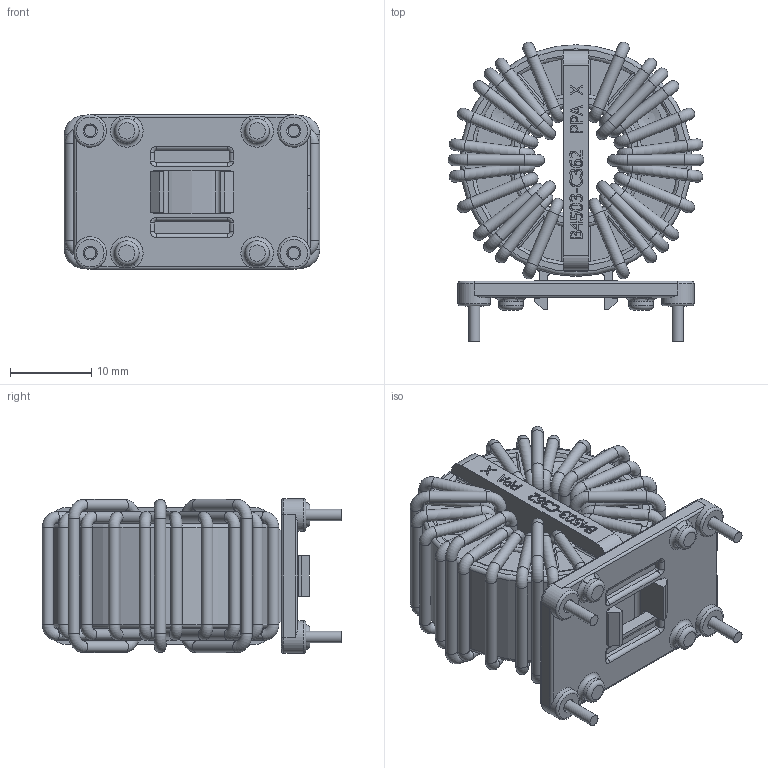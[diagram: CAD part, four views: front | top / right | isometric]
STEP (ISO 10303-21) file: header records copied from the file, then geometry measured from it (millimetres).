
FILE_DESCRIPTION(/* description */ (''),/* implementation_level */ '2;1');
FILE_NAME(/* name */ 'G:\KB-FTKon\CAD\Inventor\Bauelementnummer\6127-X014\6127-X014_Shrinkwrap_1.stp',/* time_stamp */ '2019-04-30T11:02:42+02:00',/* author */ ('de041100'),/* organization */ (''),/* preprocessor_version */ 'ST-DEVELOPER v17.2',/* originating_system */ 'Autodesk Inventor 2019',/* authorisation */ '');
FILE_SCHEMA (('AUTOMOTIVE_DESIGN { 1 0 10303 214 3 1 1 }'));
Length unit declared in the file: millimetre
Products named in the file (1): 6127-X014_Shrinkwrap_1
Bounding box: 31.4 x 36.77 x 19 mm (x, y, z)
Volume: 9805.8 mm3; surface area: 10887.4 mm2
Topology: 25 solids, 25 shells, 1354 faces, 3919 edges, 2622 vertices
Faces by surface type: plane 550, bspline 401, cylinder 229, torus 164, sphere 6, cone 4
Full cylindrical faces by diameter (mm): 1.4 x102, 1.7 x4, 3 x4, 4 x4, 13.2 x1, 14.4 x1, 27.2 x1, 28.4 x1
Entity records: 49997 total; most frequent: CARTESIAN_POINT 14696, ORIENTED_EDGE 7828, DIRECTION 5944, EDGE_CURVE 3914, VERTEX_POINT 2622, AXIS2_PLACEMENT_3D 2000, LINE 1944, VECTOR 1944
